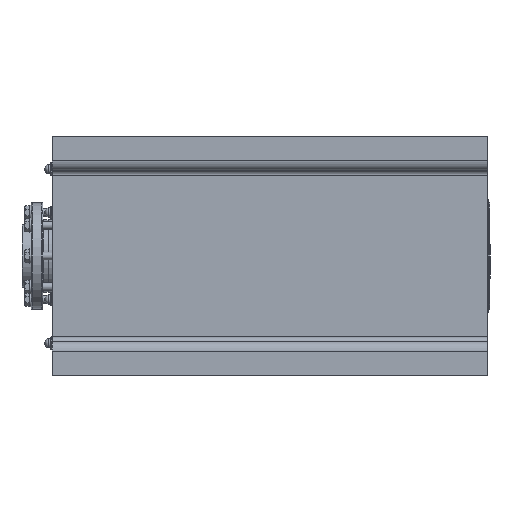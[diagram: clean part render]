
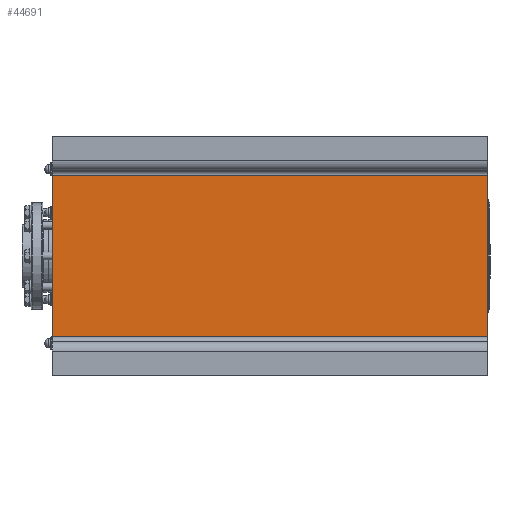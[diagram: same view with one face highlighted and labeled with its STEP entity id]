
A CAD part, front view. The second image highlights one B-rep face of the part: STEP entity #44691.
In plain terms, the highlighted planar face has unit normal (0, -1, 0).
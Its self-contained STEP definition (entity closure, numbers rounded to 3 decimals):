
#2384=PLANE('',#49184);
#7385=FACE_OUTER_BOUND('',#10224,.T.);
#10224=EDGE_LOOP('',(#39728,#39729,#39730,#39731));
#15993=LINE('',#104667,#19159);
#15994=LINE('',#104669,#19160);
#15995=LINE('',#104671,#19161);
#15996=LINE('',#104672,#19162);
#19159=VECTOR('',#60468,10.);
#19160=VECTOR('',#60469,10.);
#19161=VECTOR('',#60470,10.);
#19162=VECTOR('',#60471,10.);
#22924=VERTEX_POINT('',#104665);
#22925=VERTEX_POINT('',#104666);
#22926=VERTEX_POINT('',#104668);
#22927=VERTEX_POINT('',#104670);
#28640=EDGE_CURVE('',#22924,#22925,#15993,.T.);
#28641=EDGE_CURVE('',#22925,#22926,#15994,.T.);
#28642=EDGE_CURVE('',#22926,#22927,#15995,.T.);
#28643=EDGE_CURVE('',#22927,#22924,#15996,.T.);
#39728=ORIENTED_EDGE('',*,*,#28640,.T.);
#39729=ORIENTED_EDGE('',*,*,#28641,.T.);
#39730=ORIENTED_EDGE('',*,*,#28642,.T.);
#39731=ORIENTED_EDGE('',*,*,#28643,.T.);
#44691=ADVANCED_FACE('',(#7385),#2384,.F.);
#49184=AXIS2_PLACEMENT_3D('',#104664,#60466,#60467);
#60466=DIRECTION('center_axis',(0.,1.,0.));
#60467=DIRECTION('ref_axis',(1.,0.,0.));
#60468=DIRECTION('',(0.,0.,-1.));
#60469=DIRECTION('',(1.,0.,0.));
#60470=DIRECTION('',(0.,0.,1.));
#60471=DIRECTION('',(-1.,0.,0.));
#104664=CARTESIAN_POINT('Origin',(-135.707,-251.298,0.));
#104665=CARTESIAN_POINT('',(-585.707,-251.298,167.));
#104666=CARTESIAN_POINT('',(-585.707,-251.298,-167.));
#104667=CARTESIAN_POINT('',(-585.707,-251.298,167.));
#104668=CARTESIAN_POINT('',(314.293,-251.298,-167.));
#104669=CARTESIAN_POINT('',(-585.707,-251.298,-167.));
#104670=CARTESIAN_POINT('',(314.293,-251.298,167.));
#104671=CARTESIAN_POINT('',(314.293,-251.298,-167.));
#104672=CARTESIAN_POINT('',(314.293,-251.298,167.));
